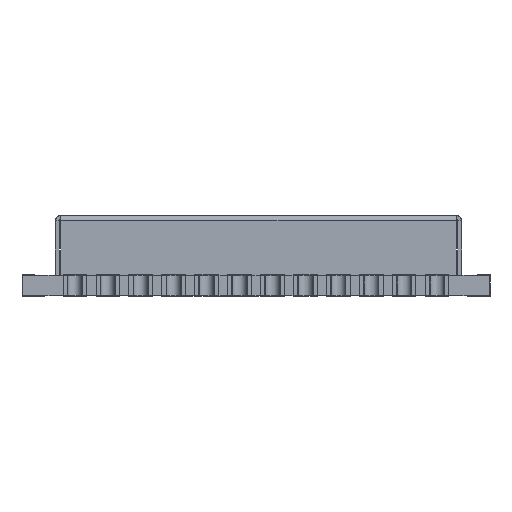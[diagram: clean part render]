
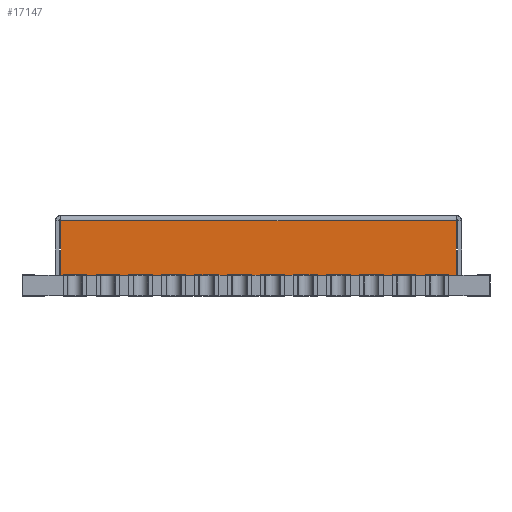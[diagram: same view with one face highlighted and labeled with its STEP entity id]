
A CAD part, front view. The second image highlights one B-rep face of the part: STEP entity #17147.
In plain terms, the highlighted planar face has unit normal (0, -1, 0).
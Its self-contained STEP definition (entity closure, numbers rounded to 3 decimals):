
#332 = VECTOR ( 'NONE', #46850, 1000. ) ;
#543 = EDGE_LOOP ( 'NONE', ( #6825, #53916, #8011, #45737 ) ) ;
#6825 = ORIENTED_EDGE ( 'NONE', *, *, #47489, .F. ) ;
#7723 = CARTESIAN_POINT ( 'NONE',  ( -7.625, -8.75, -2.3 ) ) ;
#8011 = ORIENTED_EDGE ( 'NONE', *, *, #46887, .T. ) ;
#8033 = CARTESIAN_POINT ( 'NONE',  ( 0., -8.75, 0. ) ) ;
#12428 = DIRECTION ( 'NONE',  ( 0., 0., 1. ) ) ;
#13348 = CARTESIAN_POINT ( 'NONE',  ( 7.825, -8.75, -0.2 ) ) ;
#13835 = DIRECTION ( 'NONE',  ( 0., 0., 1. ) ) ;
#17147 = ADVANCED_FACE ( 'NONE', ( #43779 ), #45553, .F. ) ;
#20315 = EDGE_CURVE ( 'NONE', #46411, #42340, #38224, .T. ) ;
#21458 = DIRECTION ( 'NONE',  ( 0., 0., 1. ) ) ;
#22141 = CARTESIAN_POINT ( 'NONE',  ( -7.625, -8.75, -2.3 ) ) ;
#22203 = CARTESIAN_POINT ( 'NONE',  ( 7.625, -8.75, 0. ) ) ;
#25237 = DIRECTION ( 'NONE',  ( 0., 1., 0. ) ) ;
#27525 = LINE ( 'NONE', #22203, #38650 ) ;
#27638 = LINE ( 'NONE', #29280, #32843 ) ;
#29280 = CARTESIAN_POINT ( 'NONE',  ( 0., -8.75, -2.3 ) ) ;
#29457 = DIRECTION ( 'NONE',  ( 1., 0., 0. ) ) ;
#31342 = VECTOR ( 'NONE', #13835, 1000. ) ;
#32843 = VECTOR ( 'NONE', #29457, 1000. ) ;
#36383 = CARTESIAN_POINT ( 'NONE',  ( 7.625, -8.75, -0.2 ) ) ;
#36631 = AXIS2_PLACEMENT_3D ( 'NONE', #8033, #25237, #12428 ) ;
#38224 = LINE ( 'NONE', #13348, #332 ) ;
#38650 = VECTOR ( 'NONE', #21458, 1000. ) ;
#41817 = VERTEX_POINT ( 'NONE', #7723 ) ;
#42340 = VERTEX_POINT ( 'NONE', #36383 ) ;
#42495 = LINE ( 'NONE', #22141, #31342 ) ;
#43779 = FACE_OUTER_BOUND ( 'NONE', #543, .T. ) ;
#44216 = VERTEX_POINT ( 'NONE', #50667 ) ;
#45553 = PLANE ( 'NONE',  #36631 ) ;
#45737 = ORIENTED_EDGE ( 'NONE', *, *, #20315, .F. ) ;
#46411 = VERTEX_POINT ( 'NONE', #48168 ) ;
#46850 = DIRECTION ( 'NONE',  ( 1., 0., 0. ) ) ;
#46887 = EDGE_CURVE ( 'NONE', #44216, #42340, #27525, .T. ) ;
#47489 = EDGE_CURVE ( 'NONE', #41817, #46411, #42495, .T. ) ;
#48168 = CARTESIAN_POINT ( 'NONE',  ( -7.625, -8.75, -0.2 ) ) ;
#50327 = EDGE_CURVE ( 'NONE', #41817, #44216, #27638, .T. ) ;
#50667 = CARTESIAN_POINT ( 'NONE',  ( 7.625, -8.75, -2.3 ) ) ;
#53916 = ORIENTED_EDGE ( 'NONE', *, *, #50327, .T. ) ;
